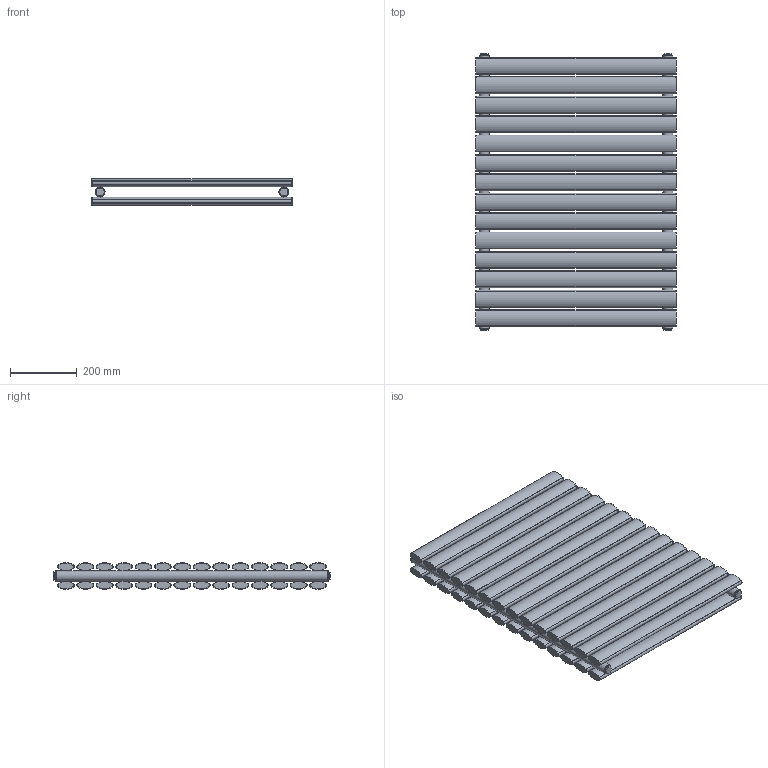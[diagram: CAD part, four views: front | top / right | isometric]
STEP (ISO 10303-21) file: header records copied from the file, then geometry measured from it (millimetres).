
FILE_DESCRIPTION(/* description */ (''),/* implementation_level */ '2;1');
FILE_NAME(/* name */ 'C:\Grzejniki\13DLUXRAD\pokojowe\FORTUNA\FORTUNA PODWÓJNA 600x816.iam.stp',/* time_stamp */ '2016-06-28T17:32:02+02:00',/* author */ ('m.szydziak'),/* organization */ (''),/* preprocessor_version */ 'ST-DEVELOPER v16.5',/* originating_system */ 'Autodesk Inventor 2017',/* authorisation */ '');
FILE_SCHEMA (('AUTOMOTIVE_DESIGN { 1 0 10303 214 3 1 1 }'));
Length unit declared in the file: millimetre
Products named in the file (5): FORTUNA PODWÓJNA 600x816; fi30x1,5x816; 50x25x1,2x600; zaślepka fi30 G0,5inch; korek
Assembly tree (38 placements, depth 2):
  FORTUNA PODWÓJNA 600x816
    fi30x1,5x816  x2
    50x25x1,2x600  x28
    zaślepka fi30 G0,5inch  x4
    korek  x4
Bounding box: 600 x 828 x 79.72 mm (x, y, z)
Volume: 2638703.1 mm3; surface area: 4315441.3 mm2
Topology: 38 solids, 38 shells, 508 faces, 1286 edges, 914 vertices
Faces by surface type: cylinder 324, plane 184
Full cylindrical faces by diameter (mm): 5 x24, 5.8 x56, 18.631 x8, 24 x4, 27 x6, 30 x2
Entity records: 2867 total; most frequent: CARTESIAN_POINT 1258, DIRECTION 306, ORIENTED_EDGE 230, AXIS2_PLACEMENT_3D 137, EDGE_CURVE 115, EDGE_LOOP 108, VERTEX_POINT 95, FACE_BOUND 55
